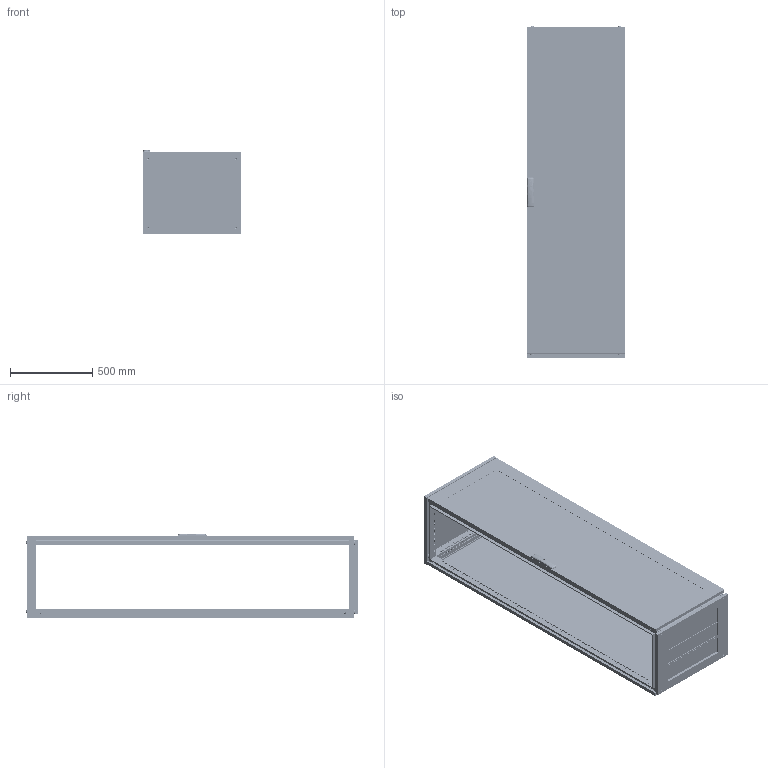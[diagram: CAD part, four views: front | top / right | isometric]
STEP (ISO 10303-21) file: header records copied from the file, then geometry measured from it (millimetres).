
FILE_DESCRIPTION (( 'STEP AP203' ), '1' );
FILE_NAME ('R5CQEN2065AX.STEP', '2025-05-07T12:06:04', ( '' ), ( '' ), 'SwSTEP 2.0', 'SolidWorks 2022', '' );
FILE_SCHEMA (( 'CONFIG_CONTROL_DESIGN' ));
Length unit declared in the file: millimetre
Products named in the file (65): TPA.08.0084.00.00.0 simple; Pin 4x16 DIN 7 AISI 303 (A1) simple; PF 7,5x15 CPE simple_2000x0600; RB.0054.01.01.0 simple_-23; RB.2680.00.02.0 simple; 7 DIN 6799 Zinc; TPA.08.0139.00.03.0; RB.2499.00.00.0 СБ simple_-13; М6х12 A5100231_straight; R5NCRE-Assem simple_R5NCRE2060; RB.2456.00.00.0 simple_-01; M6x10 DIN 912 HX cl.8,8 Zinc_straight; RB.2969.00.01.0 simple; M6x15 Erickson cl.4,8 Zinc; RB.2455.00.00.0 simple_-02; RB.2052.00.00.0 СБ simple_-23; ATOS Traction guide ILY03.35; RB.2172.00.00.1 simple; RB.2457.00.00.0 СБ simple_-13; RB.1867.01.01.0 simple_-39; 4,0x16 F Torx Zinc (ART 88200)_thread; RB.0562.00.00.0 СБ simple_-15; M6x10 DIN 7500 E HX cl.5.8 Zinc_straight; RB.0528.04.00.0 СБ simple; RB.1867.01.00.0 СБ simple_-55; AC00C446-R; 7 DIN 6799 Zinc simple; RB.0528.00.01.0 simple_-05; RB.0528.04.01.0 simple; RB.1633.00.02.0 simple_-01; RB.2968.00.00.0 simple; RB.0562.01.00.0 СБ simple_-15; RB.2686.00.00.0 simple; Glue CPTE simple_2000x0600; PF 7x14 CRE simple_2000x0600; R5NKMN - Assem simple_R5NKMN20 (600х500); Square cap 20x20 simple; RB.2357.00.00.0 simple_-03; R5NKTB - Assem simple_H=2000 R5NKTB65; PF 5x10 KTB simple_600х500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
Assembly tree (173 placements, depth 5):
  R5CQEN2065AX
    R5NCPTE - Assem simple_R5NCPTE2060
      RB.0562.00.00.0 СБ simple_-15
        RB.0562.01.00.0 СБ simple_-15
          RB.0562.01.01.0 simple_-15
          М6х12 A5100231_straight  x7
          RB.2702.00.00.0 simple  x4
          PF 7,5x15 CPE simple_2000x0600
          Glass CPTE_2000x0600
          Glue CPTE simple_2000x0600
        Square cap 20x20 simple  x2
        M6x15 Erickson cl.4,8 Zinc  x2
        RB.0528.00.01.0 simple_-05  x2
        ATOS Traction guide ILY03.35  x4
        RB.2357.00.00.0 simple_-03
        RB.2680.00.00.0 СБ simple
          TPA.08.0139.00.01.0 simple
          RB.2680.00.01.0 simple
          RB.2680.00.02.0 simple  x2
        TPA.08.0139.00.03.0  x2
        M6 DIN 985 cl.6,0 Zinc_straight  x4
        4,0x16 F Torx Zinc (ART 88200)_thread  x2
        RB.0528.04.00.0 СБ simple  x2
          RB.0528.04.01.0 simple
          Pressing stud FH-M6-12_M6x12mm
      M6x10 DIN 912 HX cl.8,8 Zinc_straight  x8
      4.8x13 DIN 7981 PH Zinc_straight
      7 DIN 6799 Zinc simple  x4
      RB.2968.00.00.0 simple  x4
      RB.2969.00.00.0 СБ simple  x4
        RB.2969.00.01.0 simple
        Pin 4x16 DIN 7 AISI 303 (A1) simple
        M6 MGR-MKO-0625 simple_Thread
      AC00C446-R
      RB.2696.00.00.0 simple  x4
      7 DIN 6799 Zinc  x4
    R5NCRE-Assem simple_R5NCRE2060
      RB.2052.00.00.0 СБ simple_-23
        RB.2052.01.00.0 СБ simple_-23
          RB.0054.01.01.0 simple_-23
          М6х12 A5100231_straight  x4
        PF 7x14 CRE simple_2000x0600
      RB.2172.00.00.1 simple  x8
      M6x10 DIN 7500 E HX cl.5.8 Zinc_straight  x8
      M6x10 DIN 7500 M Torx cl.5.8 Zinc_straight  x8
    R5NKMN - Assem simple_R5NKMN20 (600х500)
      RB.2528.00.00.0 simple_-05  x4
    R5NKTB - Assem simple_H=2000 R5NKTB65
      RB.2499.00.00.0 СБ simple_-13
        RB.2499.01.00.0 СБ simple_-12
          RB.1633.00.01.0 simple_-02  x2
          RB.1633.00.02.0 simple_-01  x2
          PF 5x10 KTB simple_600х500
        RB.2457.00.00.0 СБ simple_-13
          RB.2455.00.00.0 simple_-02  x2
          RB.2456.00.00.0 simple_-01  x2
          TPA.08.0084.00.00.0 simple  x2
          TPA.08.0083.00.00.0 simple  x2
          M8x12 AC00C476 cl.8,8 Zinc_stright  x4
        RB.1957.00.00.0 simple_-05  x3
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Bounding box: 600 x 2013.3 x 514.79 mm (x, y, z)
Volume: 14481472.6 mm3; surface area: 12577342.4 mm2
Topology: 176 solids, 192 shells, 21773 faces, 61615 edges, 40579 vertices
Faces by surface type: plane 12251, cylinder 7981, cone 704, bspline 435, torus 368, sphere 34
Entity records: 217653 total; most frequent: CARTESIAN_POINT 54243, ORIENTED_EDGE 32362, DIRECTION 30791, EDGE_CURVE 16207, VERTEX_POINT 10730, AXIS2_PLACEMENT_3D 10317, LINE 10157, VECTOR 10157
